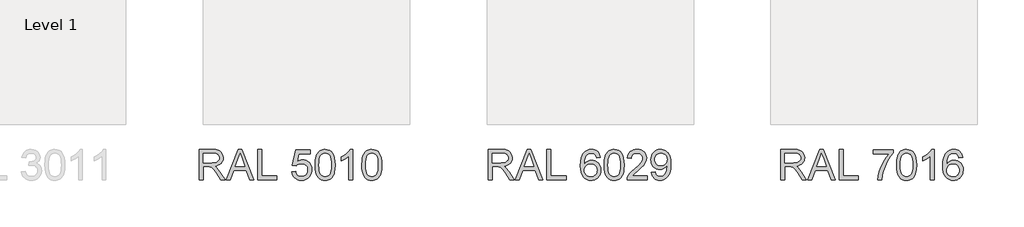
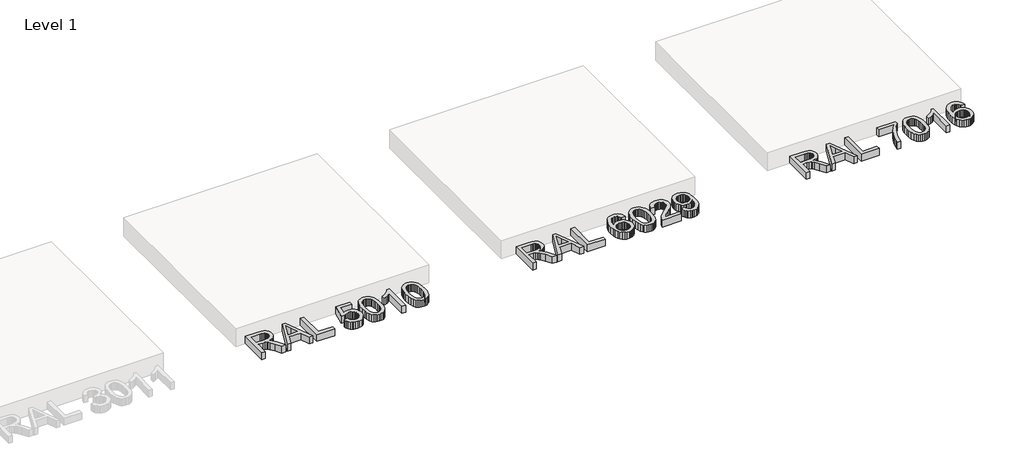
# One storey, part 15 of 27: 3 proxies.
"""IFC4 building model written with IfcOpenShell, lengths in millimetres."""

import ifcopenshell
import ifcopenshell.guid

model = None  # the IFC model being written
_history = None  # IfcOwnerHistory: only IFC2X3 demands one
_inside = {}  # id of a spatial element -> (the spatial element, [elements in it])
_under = {}  # id of a project, library or spatial element -> (it, [spatial elements below it])
_declared = {}  # id of a project -> (the project, [libraries it declares])
_typed = {}  # id of a type object -> (the type object, [elements of that type])
_made_of = {}  # id of a material, layer set ... -> (it, [elements and type objects made of it])


def new_model(schema):
    """Start an empty IFC model of exactly this schema.

    Asked for "IFC4X3", IfcOpenShell would pick the latest addendum, in which some entities
    have other attributes; the version numbers below select the first issue.
    IFC2X3 requires an IfcOwnerHistory on every rooted entity: one is made here for all.
    """
    global model, _history
    if schema == "IFC4X3":
        model = ifcopenshell.file(schema_version=(4, 3, 0, 0))
    else:
        model = ifcopenshell.file(schema=schema)
    _inside.clear()
    _under.clear()
    _declared.clear()
    _typed.clear()
    _made_of.clear()
    _history = None
    if model.schema == "IFC2X3":
        org = make("IfcOrganization", Name="unknown")
        user = make(
            "IfcPersonAndOrganization",
            ThePerson=make("IfcPerson", FamilyName="unknown"),
            TheOrganization=org,
        )
        app = make(
            "IfcApplication",
            ApplicationDeveloper=org,
            Version="unknown",
            ApplicationFullName="unknown",
            ApplicationIdentifier="unknown",
        )
        _history = make(
            "IfcOwnerHistory",
            OwningUser=user,
            OwningApplication=app,
            ChangeAction="ADDED",
            CreationDate=0,
        )
    return model


def make(cls, **values):
    """One entity of the class cls with the attributes given. An attribute that is None is left unset."""
    return model.create_entity(
        cls, **{name: value for name, value in values.items() if value is not None}
    )


def rooted(cls, **values):
    """An entity with a GlobalId (a new one), such as an element, a storey or a relation."""
    return make(cls, GlobalId=ifcopenshell.guid.new(), OwnerHistory=_history, **values)


def si_unit(unit_type, name, prefix=None):
    """IfcSIUnit, for example si_unit("LENGTHUNIT", "METRE", prefix="MILLI")."""
    return make("IfcSIUnit", UnitType=unit_type, Prefix=prefix, Name=name)


def assignment(units):
    """IfcUnitAssignment: the units of a project."""
    return None if units is None else make("IfcUnitAssignment", Units=units)


def point(xyz):
    """IfcCartesianPoint."""
    return None if xyz is None else make("IfcCartesianPoint", Coordinates=xyz)


def direction(xyz):
    """IfcDirection."""
    return None if xyz is None else make("IfcDirection", DirectionRatios=xyz)


def frame(location, z_axis=None, x_axis=None):
    """IfcAxis2Placement3D, a coordinate frame: its origin and axes. An axis left out is left unset."""
    return make(
        "IfcAxis2Placement3D",
        Location=point(location),
        Axis=direction(z_axis),
        RefDirection=direction(x_axis),
    )


def origin():
    """The frame at (0, 0, 0) with its axes left unset."""
    return frame((0.0, 0.0, 0.0))


def origin_with_axes():
    """The frame at (0, 0, 0) with the z axis (0, 0, 1) and the x axis (1, 0, 0) written out."""
    return frame((0.0, 0.0, 0.0), z_axis=(0.0, 0.0, 1.0), x_axis=(1.0, 0.0, 0.0))


def place(relative_to, where):
    """IfcLocalPlacement: puts the frame where relative to a parent placement (None: the world)."""
    return make(
        "IfcLocalPlacement", PlacementRelTo=relative_to, RelativePlacement=where
    )


def context(
    kind, dimensions, precision=None, world=None, true_north=None, identifier=None
):
    """IfcGeometricRepresentationContext, for example the 3D "Model" context."""
    return make(
        "IfcGeometricRepresentationContext",
        ContextIdentifier=identifier,
        ContextType=kind,
        CoordinateSpaceDimension=dimensions,
        Precision=precision,
        WorldCoordinateSystem=world,
        TrueNorth=true_north,
    )


def project(units=None, contexts=None):
    """IfcProject with its units and contexts."""
    return rooted(
        "IfcProject",
        Name="project",
        RepresentationContexts=contexts,
        UnitsInContext=assignment(units),
    )


def spatial(cls, under=None, at=None, **own):
    """A site, building, storey or space (cls), placed at a placement, below another one or the project."""
    s = rooted(cls, ObjectPlacement=at, **own)
    if under is not None:
        _under.setdefault(under.id(), (under, []))[1].append(s)
    return s


def polyline(points):
    """IfcPolyline through the points."""
    return make("IfcPolyline", Points=[point(p) for p in points])


def outline(outer, holes=None, kind="AREA"):
    """IfcArbitraryClosedProfileDef: a profile drawn as a closed curve; with holes, ...WithVoids."""
    if holes is None:
        return make("IfcArbitraryClosedProfileDef", ProfileType=kind, OuterCurve=outer)
    return make(
        "IfcArbitraryProfileDefWithVoids",
        ProfileType=kind,
        OuterCurve=outer,
        InnerCurves=holes,
    )


def extrude(swept, where, along, depth):
    """IfcExtrudedAreaSolid: the profile swept, set in the frame where, extruded along a direction by depth."""
    return make(
        "IfcExtrudedAreaSolid",
        SweptArea=swept,
        Position=where,
        ExtrudedDirection=direction(along),
        Depth=depth,
    )


def shape(context_of_items, identifier, shape_type, items):
    """IfcShapeRepresentation: the items that make up one representation, for example the "Body"."""
    return make(
        "IfcShapeRepresentation",
        ContextOfItems=context_of_items,
        RepresentationIdentifier=identifier,
        RepresentationType=shape_type,
        Items=items,
    )


def made_of(thing, what):
    """Note that an element or type object is made of a material, layer set ...; save() writes the relation."""
    if what is not None:
        _made_of.setdefault(what.id(), (what, []))[1].append(thing)
    return thing


def element(
    cls,
    number,
    at=None,
    inside=None,
    cuts=None,
    type_object=None,
    material=None,
    context=None,
    identifier="Body",
    shape_type=None,
    held_by="IfcProductDefinitionShape",
    body=None,
    shapes=None,
    **own,
):
    """One element of the class cls, such as IfcWall. Its Tag is "e" and its number.

    at: its placement. inside: the storey or other place that contains it. cuts: it is an
    opening in that element (IfcRelVoidsElement). A single representation is given by context,
    identifier, shape_type and body (its items); several are given by shapes. held_by: the class
    of the entity that holds the representations. save() writes the other relations.
    """
    e = rooted(cls, Tag="e%d" % number, ObjectPlacement=at, **own)
    if body is not None:
        shapes = [shape(context, identifier, shape_type, body)]
    if shapes is not None:
        e.Representation = make(held_by, Representations=shapes)
    if inside is not None:
        _inside.setdefault(inside.id(), (inside, []))[1].append(e)
    if cuts is not None:
        rooted(
            "IfcRelVoidsElement", RelatingBuildingElement=cuts, RelatedOpeningElement=e
        )
    if type_object is not None:
        _typed.setdefault(type_object.id(), (type_object, []))[1].append(e)
    return made_of(e, material)


def aggregate(whole, parts):
    """IfcRelAggregates: a whole, such as a stair, and the parts it consists of."""
    return rooted("IfcRelAggregates", RelatingObject=whole, RelatedObjects=parts)


def save(model, path):
    """Write the relations noted so far, then the file.

    IfcRelAggregates (storeys below a building ...), IfcRelContainedInSpatialStructure (elements
    in a storey), IfcRelDefinesByType, IfcRelAssociatesMaterial and IfcRelDeclares: one each for
    every whole, place, type object, material and project.
    """
    for whole, parts in _under.values():
        aggregate(whole, parts)
    for where, things in _inside.values():
        rooted(
            "IfcRelContainedInSpatialStructure",
            RelatedElements=things,
            RelatingStructure=where,
        )
    for kind, things in _typed.values():
        rooted("IfcRelDefinesByType", RelatedObjects=things, RelatingType=kind)
    for what, things in _made_of.values():
        rooted("IfcRelAssociatesMaterial", RelatedObjects=things, RelatingMaterial=what)
    for by, libraries in _declared.values():
        rooted("IfcRelDeclares", RelatingContext=by, RelatedDefinitions=libraries)
    model.write(path)


model = new_model("IFC4")

# Units and contexts
model_context = context("Model", 3, world=origin())
ifc_project = project(units=[si_unit("LENGTHUNIT", "METRE", prefix="MILLI")], contexts=[model_context])

# Site, building, storey
site = spatial("IfcSite", under=ifc_project)
building = spatial("IfcBuilding", under=site)
storey = spatial("IfcBuildingStorey", under=building, Name="Level 1", Elevation=0.0)

# Proxies
placement = place(None, origin())
element("IfcBuildingElementProxy", 1, Name="600mm Arial", ObjectType="600mm Arial", at=placement, inside=storey, context=model_context, shape_type="SweptSolid", body=[
    extrude(outline(polyline([(9623.5808217, -57508.2089819), (9623.5808217, -56917.4397512), (9878.1481294, -56917.4397512), (9946.5676005, -56921.4241262), (9996.3452448, -56933.3772512), (10015.5549803, -56942.8784531), (10032.7274563, -56955.4445588), (10047.8626727, -56971.0755685), (10060.9606294, -56989.7714819), (10071.5300404, -57010.5271911), (10079.0796198, -57032.3375877), (10085.1192832, -57079.1224435), (10082.6177808, -57109.4649915), (10075.1132736, -57137.3195588), (10062.6057616, -57162.6861454), (10045.0952448, -57185.5647512), (10022.3563626, -57205.2252079), (9994.1637544, -57220.9373473), (9960.5174202, -57232.7011694), (9921.4173602, -57240.5166742), (9945.7563025, -57256.4181165), (9963.388514, -57272.1032127), (10023.2442832, -57348.1128281), (10121.7538986, -57508.2089819), (10035.9365909, -57508.2089819), (9959.0615909, -57385.7570588), (9903.5327448, -57304.6993665), (9882.8897159, -57281.0635492), (9864.5183217, -57266.4060973), (9829.3981294, -57252.3435973), (9786.5615909, -57249.7474435), (9697.4269755, -57249.7474435), (9697.4269755, -57508.2089819), (9623.5808217, -57508.2089819)]), holes=[polyline([(9697.4269755, -57175.9012896), (9862.7154371, -57175.9012896), (9910.185389, -57173.2871069), (9947.0183217, -57165.4445588), (9974.7466871, -57151.8508088), (9994.9029371, -57131.9830204), (10007.1805813, -57107.9505685), (10011.2731294, -57081.8628281), (10009.3215068, -57062.9776117), (10003.466639, -57045.8411935), (9993.708526, -57030.4535733), (9980.0471678, -57016.8147512), (9962.1670597, -57005.645881), (9939.7526967, -56997.6681165), (9912.8040789, -56992.8814579), (9881.3212063, -56991.285905), (9697.4269755, -56991.285905), (9697.4269755, -57175.9012896)])]), origin_with_axes(), (0.0, 0.0, 1.0), 150.0),
    extrude(outline(polyline([(10145.5519755, -57508.2089819), (10381.3692832, -56917.4397512), (10444.2538986, -56917.4397512), (10680.0712063, -57508.2089819), (10602.0423602, -57508.2089819), (10534.3981294, -57323.5935973), (10291.0808217, -57323.5935973), (10223.5808217, -57508.2089819), (10145.5519755, -57508.2089819)]), holes=[polyline([(10318.1962063, -57249.7474435), (10507.4269755, -57249.7474435), (10454.2058217, -57104.5070588), (10412.8115909, -56991.285905), (10376.0327448, -57091.8147512), (10318.1962063, -57249.7474435)])]), origin_with_axes(), (0.0, 0.0, 1.0), 150.0),
    extrude(outline(polyline([(10758.9654371, -57508.2089819), (10758.9654371, -56917.4397512), (10832.8115909, -56917.4397512), (10832.8115909, -57434.3628281), (11128.1962063, -57434.3628281), (11128.1962063, -57508.2089819), (10758.9654371, -57508.2089819)])), origin_with_axes(), (0.0, 0.0, 1.0), 150.0),
    extrude(outline(polyline([(11414.3500525, -57000.5166742), (11414.3500525, -56926.6705204), (11802.0423602, -56926.6705204), (11802.0423602, -56986.3820588), (11746.7839467, -57056.3159531), (11692.0663986, -57145.2522512), (11643.8031775, -57245.0779723), (11607.9077448, -57347.6801358), (11590.3115909, -57424.4469627), (11580.5038986, -57508.2089819), (11506.6577448, -57508.2089819), (11514.6445236, -57432.0911935), (11536.0087063, -57341.6224435), (11570.1733698, -57245.7270108), (11616.5615909, -57153.3291742), (11670.7202448, -57069.80153), (11728.1962063, -57000.5166742), (11414.3500525, -57000.5166742)])), origin_with_axes(), (0.0, 0.0, 1.0), 150.0),
    extrude(outline(polyline([(11866.6577448, -57217.5839819), (11872.0844275, -57123.0226838), (11878.8677808, -57082.9220228), (11888.3644755, -57047.6080204), (11900.5339467, -57016.7922151), (11915.3356294, -56990.1861454), (11932.7695236, -56967.7898113), (11952.8356294, -56949.6032127), (11975.6015549, -56935.5316983), (12001.1349082, -56925.4806165), (12029.4356895, -56919.4499675), (12060.5038986, -56917.4397512), (12106.0087063, -56922.1993665), (12146.7538986, -56936.4782127), (12180.8284178, -56959.7173954), (12206.3212063, -56991.3580204), (12225.576014, -57031.129655), (12240.9365909, -57078.7618665), (12250.9966871, -57139.2486454), (12254.3500525, -57217.5839819), (12248.9774563, -57311.6044146), (12242.2617111, -57351.5698593), (12232.8596678, -57386.8387896), (12220.7848481, -57417.6681165), (12206.0507736, -57444.3147512), (12188.6574443, -57466.7786935), (12168.6048602, -57485.0599435), (12145.8118914, -57499.2261093), (12120.1974082, -57509.3447992), (12091.7614106, -57515.4160132), (12060.5038986, -57517.4397512), (12019.8308217, -57513.9241262), (11983.7731294, -57503.3772512), (11952.3308217, -57485.7991262), (11925.5038986, -57461.1897512), (11899.7587063, -57416.7035733), (11881.3692832, -57361.2738858), (11870.3356294, -57294.9006887), (11866.6577448, -57217.5839819)]), holes=[polyline([(11940.5038986, -57217.4397512), (11942.6673602, -57281.6359651), (11949.1577448, -57333.5996069), (11959.9750525, -57373.3306766), (11975.1192832, -57400.8291742), (11993.4365909, -57419.5386093), (12013.7731294, -57432.9024915), (12036.1288986, -57440.9208209), (12060.5038986, -57443.5935973), (12084.8788986, -57440.9118064), (12107.2346678, -57432.8664338), (12127.5712063, -57419.4574795), (12145.888514, -57400.6849435), (12161.0327448, -57373.1413738), (12171.8500525, -57333.4193185), (12178.3404371, -57281.5187776), (12180.5038986, -57217.4397512), (12178.4125525, -57154.942756), (12172.138514, -57103.8940781), (12161.6817832, -57064.2937175), (12147.0423602, -57036.1416742), (12129.0315428, -57016.5172752), (12108.4606294, -57002.4998473), (12085.3296198, -56994.0893906), (12059.638514, -56991.285905), (12035.3897159, -56993.7558569), (12013.4125525, -57001.1657127), (11993.7070236, -57013.5154723), (11976.2731294, -57030.8051358), (11960.6240909, -57061.4541742), (11949.4462063, -57102.7762896), (11942.7394755, -57154.7714819), (11940.5038986, -57217.4397512)])]), origin_with_axes(), (0.0, 0.0, 1.0), 150.0),
    extrude(outline(polyline([(12595.888514, -57508.2089819), (12522.0423602, -57508.2089819), (12522.0423602, -57047.8243665), (12491.2130332, -57072.7582608), (12452.0904371, -57097.6560973), (12411.0207255, -57119.4169146), (12374.3500525, -57134.9397512), (12374.3500525, -57065.1320588), (12432.3488505, -57033.5815781), (12482.5952448, -56996.0455204), (12522.2046198, -56956.129655), (12548.2923602, -56917.4397512), (12595.888514, -56917.4397512), (12595.888514, -57508.2089819)])), origin_with_axes(), (0.0, 0.0, 1.0), 150.0),
    extrude(outline(polyline([(13149.7346678, -57074.3628281), (13075.888514, -57083.5935973), (13063.9894755, -57046.9950396), (13047.9077448, -57022.0070588), (13032.0333457, -57008.566554), (13014.4101486, -56998.9661935), (12995.0381534, -56993.2059771), (12973.9173602, -56991.285905), (12939.5904371, -56995.7570588), (12907.2827448, -57009.1705204), (12879.5363505, -57037.4217223), (12856.8740909, -57076.3099435), (12848.0174202, -57101.1131286), (12841.5676005, -57131.3159531), (12835.888514, -57207.9205204), (12865.5099082, -57173.3592223), (12901.0087063, -57149.0022512), (12940.4017352, -57134.5611454), (12981.7058217, -57129.7474435), (13017.1865909, -57133.0377079), (13049.9269755, -57142.9085012), (13079.9269755, -57159.3598233), (13107.1865909, -57182.3916742), (13129.8398361, -57210.6338617), (13146.0207255, -57242.7161935), (13155.7292592, -57278.6386694), (13158.9654371, -57318.4012896), (13152.8716871, -57371.2798954), (13145.2544996, -57396.2723834), (13134.5904371, -57420.3003281), (13121.2581053, -57442.4667944), (13105.6361102, -57461.8748473), (13087.7244515, -57478.5244867), (13067.5231294, -57492.4157127), (13045.4648361, -57503.3637295), (13021.982264, -57511.1837415), (12997.075413, -57515.8757488), (12970.7442832, -57517.4397512), (12926.7223481, -57513.2931165), (12886.9642352, -57500.8532127), (12851.4699443, -57480.1200396), (12820.2394755, -57451.0935973), (12794.7782376, -57412.5479242), (12776.591639, -57363.2570588), (12765.6796799, -57303.2210012), (12762.0423602, -57232.4397512), (12766.0808217, -57153.0857848), (12778.1962063, -57085.3604242), (12798.388514, -57029.2636694), (12811.513514, -57005.5760192), (12826.6577448, -56984.7955204), (12857.2977688, -56955.3273713), (12892.8236102, -56934.2786935), (12933.2352688, -56921.6494867), (12978.5327448, -56917.4397512), (13012.544163, -56920.0449194), (13043.3284178, -56927.8604242), (13070.8855092, -56940.8862656), (13095.2154371, -56959.1224435), (13115.6601486, -56981.9559771), (13131.5615909, -57008.7738858), (13142.919764, -57039.5761694), (13149.7346678, -57074.3628281)]), holes=[polyline([(12835.888514, -57317.2474435), (12840.1613505, -57349.9697992), (12852.9798602, -57381.2137896), (12872.8837063, -57408.0767704), (12898.4125525, -57427.6560973), (12929.2238505, -57439.6092223), (12964.9750525, -57443.5935973), (12990.6436222, -57441.5292944), (13013.7070236, -57435.3363858), (13034.1652568, -57425.0148713), (13052.0183217, -57410.5647512), (13066.4999924, -57392.5719627), (13076.8440428, -57371.6224435), (13083.0504731, -57347.7161935), (13085.1192832, -57320.8532127), (13083.0775164, -57295.0404122), (13076.9522159, -57272.1212415), (13066.7433818, -57252.0957007), (13052.451014, -57234.9637896), (13034.5438626, -57221.2393305), (13013.4906775, -57211.4361454), (12989.2914587, -57205.5542343), (12961.9462063, -57203.5935973), (12936.6201847, -57205.5542343), (12913.2863505, -57211.4361454), (12891.9447039, -57221.2393305), (12872.5952448, -57234.9637896), (12856.5360501, -57251.8703401), (12845.0651967, -57271.2197992), (12838.1826847, -57293.012167), (12835.888514, -57317.2474435)])]), origin_with_axes(), (0.0, 0.0, 1.0), 150.0),
])
element("IfcBuildingElementProxy", 2, Name="600mm Arial", ObjectType="600mm Arial", at=placement, inside=storey, context=model_context, shape_type="SweptSolid", body=[
    extrude(outline(polyline([(-1640.486023, -57508.2089819), (-1640.486023, -56917.4397512), (-1385.9187153, -56917.4397512), (-1317.4992441, -56921.4241262), (-1267.7215999, -56933.3772512), (-1248.5118643, -56942.8784531), (-1231.3393884, -56955.4445588), (-1216.204172, -56971.0755685), (-1203.1062153, -56989.7714819), (-1192.5368042, -57010.5271911), (-1184.9872249, -57032.3375877), (-1178.9475614, -57079.1224435), (-1181.4490638, -57109.4649915), (-1188.953571, -57137.3195588), (-1201.4610831, -57162.6861454), (-1218.9715999, -57185.5647512), (-1241.7104821, -57205.2252079), (-1269.9030903, -57220.9373473), (-1303.5494244, -57232.7011694), (-1342.6494845, -57240.5166742), (-1318.3105422, -57256.4181165), (-1300.6783307, -57272.1032127), (-1240.8225614, -57348.1128281), (-1142.312946, -57508.2089819), (-1228.1302537, -57508.2089819), (-1305.0052537, -57385.7570588), (-1360.5340999, -57304.6993665), (-1381.1771287, -57281.0635492), (-1399.548523, -57266.4060973), (-1434.6687153, -57252.3435973), (-1477.5052537, -57249.7474435), (-1566.6398691, -57249.7474435), (-1566.6398691, -57508.2089819), (-1640.486023, -57508.2089819)]), holes=[polyline([(-1566.6398691, -57175.9012896), (-1401.3514076, -57175.9012896), (-1353.8814557, -57173.2871069), (-1317.048523, -57165.4445588), (-1289.3201576, -57151.8508088), (-1269.1639076, -57131.9830204), (-1256.8862634, -57107.9505685), (-1252.7937153, -57081.8628281), (-1254.7453379, -57062.9776117), (-1260.6002057, -57045.8411935), (-1270.3583186, -57030.4535733), (-1284.0196768, -57016.8147512), (-1301.899785, -57005.645881), (-1324.314148, -56997.6681165), (-1351.2627658, -56992.8814579), (-1382.7456384, -56991.285905), (-1566.6398691, -56991.285905), (-1566.6398691, -57175.9012896)])]), origin_with_axes(), (0.0, 0.0, 1.0), 150.0),
    extrude(outline(polyline([(-1118.5148691, -57508.2089819), (-882.6975614, -56917.4397512), (-819.812946, -56917.4397512), (-583.9956384, -57508.2089819), (-662.0244845, -57508.2089819), (-729.6687153, -57323.5935973), (-972.986023, -57323.5935973), (-1040.486023, -57508.2089819), (-1118.5148691, -57508.2089819)]), holes=[polyline([(-945.8706384, -57249.7474435), (-756.6398691, -57249.7474435), (-809.861023, -57104.5070588), (-851.2552537, -56991.285905), (-888.0340999, -57091.8147512), (-945.8706384, -57249.7474435)])]), origin_with_axes(), (0.0, 0.0, 1.0), 150.0),
    extrude(outline(polyline([(-505.1014076, -57508.2089819), (-505.1014076, -56917.4397512), (-431.2552537, -56917.4397512), (-431.2552537, -57434.3628281), (-135.8706384, -57434.3628281), (-135.8706384, -57508.2089819), (-505.1014076, -57508.2089819)])), origin_with_axes(), (0.0, 0.0, 1.0), 150.0),
    extrude(outline(polyline([(150.2832078, -57351.285905), (224.1293616, -57342.0551358), (229.6461886, -57365.7946189), (237.687054, -57386.3880685), (248.2519578, -57403.8354843), (261.3409001, -57418.1368665), (276.9268376, -57429.2741863), (294.982727, -57437.2294146), (315.5085684, -57442.0025516), (338.5043616, -57443.5935973), (366.6293616, -57441.3805564), (391.437054, -57434.7414338), (412.9274386, -57423.6762295), (431.1005155, -57408.1849435), (445.5506357, -57389.0338016), (455.8721501, -57366.98903), (462.0650588, -57342.0506286), (464.1293616, -57314.2185973), (462.1957679, -57287.9145108), (456.3949866, -57264.5310973), (446.7270179, -57244.0683569), (433.1918616, -57226.5262896), (415.7444458, -57212.4547752), (394.3396982, -57202.4036935), (368.9776189, -57196.3730444), (339.6582078, -57194.3628281), (303.8348905, -57197.5719627), (274.826477, -57207.1993665), (251.6594097, -57221.9469627), (233.3601309, -57240.5166742), (159.513977, -57231.285905), (224.1293616, -56926.6705204), (510.2832078, -56926.6705204), (510.2832078, -57000.5166742), (283.8409001, -57000.5166742), (252.2543616, -57163.2089819), (278.3150588, -57144.5310973), (305.0067655, -57131.1897512), (332.3294818, -57123.1849435), (360.2832078, -57120.5166742), (396.2462487, -57123.8249675), (429.279602, -57133.7498473), (459.3832679, -57150.2913137), (486.5572463, -57173.4493665), (509.052739, -57201.8087415), (525.1209482, -57233.9541742), (534.7618737, -57269.8856646), (537.9755155, -57309.6032127), (535.0818857, -57347.8604242), (526.4009963, -57383.4493665), (511.9328472, -57416.3700396), (491.6774386, -57446.6224435), (460.9923424, -57477.6050156), (425.187054, -57499.7354242), (384.2615732, -57513.0136694), (338.2159001, -57517.4397512), (300.1074265, -57514.5957007), (265.685852, -57506.0635492), (234.9511765, -57491.8432968), (207.9034001, -57471.9349435), (185.3988929, -57447.3300757), (168.2940251, -57419.02028), (156.5887967, -57387.0055564), (150.2832078, -57351.285905)])), origin_with_axes(), (0.0, 0.0, 1.0), 150.0),
    extrude(outline(polyline([(602.5909001, -57217.5839819), (608.0175828, -57123.0226838), (614.8009362, -57082.9220228), (624.2976309, -57047.6080204), (636.467102, -57016.7922151), (651.2687847, -56990.1861454), (668.702679, -56967.7898113), (688.7687847, -56949.6032127), (711.5347102, -56935.5316983), (737.0680636, -56925.4806165), (765.3688448, -56919.4499675), (796.437054, -56917.4397512), (841.9418616, -56922.1993665), (882.687054, -56936.4782127), (916.7615732, -56959.7173954), (942.2543616, -56991.3580204), (961.5091693, -57031.129655), (976.8697463, -57078.7618665), (986.9298424, -57139.2486454), (990.2832078, -57217.5839819), (984.9106116, -57311.6044146), (978.1948665, -57351.5698593), (968.7928232, -57386.8387896), (956.7180035, -57417.6681165), (941.983929, -57444.3147512), (924.5905996, -57466.7786935), (904.5380155, -57485.0599435), (881.7450467, -57499.2261093), (856.1305636, -57509.3447992), (827.694566, -57515.4160132), (796.437054, -57517.4397512), (755.763977, -57513.9241262), (719.7062847, -57503.3772512), (688.263977, -57485.7991262), (661.437054, -57461.1897512), (635.6918616, -57416.7035733), (617.3024386, -57361.2738858), (606.2687847, -57294.9006887), (602.5909001, -57217.5839819)]), holes=[polyline([(676.437054, -57217.4397512), (678.6005155, -57281.6359651), (685.0909001, -57333.5996069), (695.9082078, -57373.3306766), (711.0524386, -57400.8291742), (729.3697463, -57419.5386093), (749.7062847, -57432.9024915), (772.062054, -57440.9208209), (796.437054, -57443.5935973), (820.812054, -57440.9118064), (843.1678232, -57432.8664338), (863.5043616, -57419.4574795), (881.8216693, -57400.6849435), (896.9659001, -57373.1413738), (907.7832078, -57333.4193185), (914.2735924, -57281.5187776), (916.437054, -57217.4397512), (914.3457078, -57154.942756), (908.0716693, -57103.8940781), (897.6149386, -57064.2937175), (882.9755155, -57036.1416742), (864.9646982, -57016.5172752), (844.3937847, -57002.4998473), (821.2627751, -56994.0893906), (795.5716693, -56991.285905), (771.3228713, -56993.7558569), (749.3457078, -57001.1657127), (729.640179, -57013.5154723), (712.2062847, -57030.8051358), (696.5572463, -57061.4541742), (685.3793616, -57102.7762896), (678.6726309, -57154.7714819), (676.437054, -57217.4397512)])]), origin_with_axes(), (0.0, 0.0, 1.0), 150.0),
    extrude(outline(polyline([(1331.8216693, -57508.2089819), (1257.9755155, -57508.2089819), (1257.9755155, -57047.8243665), (1227.1461886, -57072.7582608), (1188.0235924, -57097.6560973), (1146.9538809, -57119.4169146), (1110.2832078, -57134.9397512), (1110.2832078, -57065.1320588), (1168.2820059, -57033.5815781), (1218.5284001, -56996.0455204), (1258.1377751, -56956.129655), (1284.2255155, -56917.4397512), (1331.8216693, -56917.4397512), (1331.8216693, -57508.2089819)])), origin_with_axes(), (0.0, 0.0, 1.0), 150.0),
    extrude(outline(polyline([(1507.2062847, -57217.5839819), (1512.6329674, -57123.0226838), (1519.4163208, -57082.9220228), (1528.9130155, -57047.6080204), (1541.0824866, -57016.7922151), (1555.8841693, -56990.1861454), (1573.3180636, -56967.7898113), (1593.3841693, -56949.6032127), (1616.1500948, -56935.5316983), (1641.6834482, -56925.4806165), (1669.9842294, -56919.4499675), (1701.0524386, -56917.4397512), (1746.5572463, -56922.1993665), (1787.3024386, -56936.4782127), (1821.3769578, -56959.7173954), (1846.8697463, -56991.3580204), (1866.124554, -57031.129655), (1881.4851309, -57078.7618665), (1891.545227, -57139.2486454), (1894.8985924, -57217.5839819), (1889.5259963, -57311.6044146), (1882.8102511, -57351.5698593), (1873.4082078, -57386.8387896), (1861.3333881, -57417.6681165), (1846.5993136, -57444.3147512), (1829.2059842, -57466.7786935), (1809.1534001, -57485.0599435), (1786.3604314, -57499.2261093), (1760.7459482, -57509.3447992), (1732.3099506, -57515.4160132), (1701.0524386, -57517.4397512), (1660.3793616, -57513.9241262), (1624.3216693, -57503.3772512), (1592.8793616, -57485.7991262), (1566.0524386, -57461.1897512), (1540.3072463, -57416.7035733), (1521.9178232, -57361.2738858), (1510.8841693, -57294.9006887), (1507.2062847, -57217.5839819)]), holes=[polyline([(1581.0524386, -57217.4397512), (1583.2159001, -57281.6359651), (1589.7062847, -57333.5996069), (1600.5235924, -57373.3306766), (1615.6678232, -57400.8291742), (1633.9851309, -57419.5386093), (1654.3216693, -57432.9024915), (1676.6774386, -57440.9208209), (1701.0524386, -57443.5935973), (1725.4274386, -57440.9118064), (1747.7832078, -57432.8664338), (1768.1197463, -57419.4574795), (1786.437054, -57400.6849435), (1801.5812847, -57373.1413738), (1812.3985924, -57333.4193185), (1818.888977, -57281.5187776), (1821.0524386, -57217.4397512), (1818.9610924, -57154.942756), (1812.687054, -57103.8940781), (1802.2303232, -57064.2937175), (1787.5909001, -57036.1416742), (1769.5800828, -57016.5172752), (1749.0091693, -57002.4998473), (1725.8781597, -56994.0893906), (1700.187054, -56991.285905), (1675.9382559, -56993.7558569), (1653.9610924, -57001.1657127), (1634.2555636, -57013.5154723), (1616.8216693, -57030.8051358), (1601.1726309, -57061.4541742), (1589.9947463, -57102.7762896), (1583.2880155, -57154.7714819), (1581.0524386, -57217.4397512)])]), origin_with_axes(), (0.0, 0.0, 1.0), 150.0),
])
element("IfcBuildingElementProxy", 3, Name="600mm Arial", ObjectType="600mm Arial", at=placement, inside=storey, context=model_context, shape_type="SweptSolid", body=[
    extrude(outline(polyline([(3959.513977, -57508.2089819), (3959.513977, -56917.4397512), (4214.0812847, -56917.4397512), (4282.5007559, -56921.4241262), (4332.2784001, -56933.3772512), (4351.4881357, -56942.8784531), (4368.6606116, -56955.4445588), (4383.795828, -56971.0755685), (4396.8937847, -56989.7714819), (4407.4631958, -57010.5271911), (4415.0127751, -57032.3375877), (4421.0524386, -57079.1224435), (4418.5509362, -57109.4649915), (4411.046429, -57137.3195588), (4398.5389169, -57162.6861454), (4381.0284001, -57185.5647512), (4358.2895179, -57205.2252079), (4330.0969097, -57220.9373473), (4296.4505756, -57232.7011694), (4257.3505155, -57240.5166742), (4281.6894578, -57256.4181165), (4299.3216693, -57272.1032127), (4359.1774386, -57348.1128281), (4457.687054, -57508.2089819), (4371.8697463, -57508.2089819), (4294.9947463, -57385.7570588), (4239.4659001, -57304.6993665), (4218.8228713, -57281.0635492), (4200.451477, -57266.4060973), (4165.3312847, -57252.3435973), (4122.4947463, -57249.7474435), (4033.3601309, -57249.7474435), (4033.3601309, -57508.2089819), (3959.513977, -57508.2089819)]), holes=[polyline([(4033.3601309, -57175.9012896), (4198.6485924, -57175.9012896), (4246.1185443, -57173.2871069), (4282.951477, -57165.4445588), (4310.6798424, -57151.8508088), (4330.8360924, -57131.9830204), (4343.1137366, -57107.9505685), (4347.2062847, -57081.8628281), (4345.2546621, -57062.9776117), (4339.3997943, -57045.8411935), (4329.6416814, -57030.4535733), (4315.9803232, -57016.8147512), (4298.100215, -57005.645881), (4275.685852, -56997.6681165), (4248.7372342, -56992.8814579), (4217.2543616, -56991.285905), (4033.3601309, -56991.285905), (4033.3601309, -57175.9012896)])]), origin_with_axes(), (0.0, 0.0, 1.0), 150.0),
    extrude(outline(polyline([(4481.4851309, -57508.2089819), (4717.3024386, -56917.4397512), (4780.187054, -56917.4397512), (5016.0043616, -57508.2089819), (4937.9755155, -57508.2089819), (4870.3312847, -57323.5935973), (4627.013977, -57323.5935973), (4559.513977, -57508.2089819), (4481.4851309, -57508.2089819)]), holes=[polyline([(4654.1293616, -57249.7474435), (4843.3601309, -57249.7474435), (4790.138977, -57104.5070588), (4748.7447463, -56991.285905), (4711.9659001, -57091.8147512), (4654.1293616, -57249.7474435)])]), origin_with_axes(), (0.0, 0.0, 1.0), 150.0),
    extrude(outline(polyline([(5094.8985924, -57508.2089819), (5094.8985924, -56917.4397512), (5168.7447463, -56917.4397512), (5168.7447463, -57434.3628281), (5464.1293616, -57434.3628281), (5464.1293616, -57508.2089819), (5094.8985924, -57508.2089819)])), origin_with_axes(), (0.0, 0.0, 1.0), 150.0),
    extrude(outline(polyline([(6128.7447463, -57074.3628281), (6054.8985924, -57083.5935973), (6042.999554, -57046.9950396), (6026.9178232, -57022.0070588), (6011.0434241, -57008.566554), (5993.420227, -56998.9661935), (5974.0482318, -56993.2059771), (5952.9274386, -56991.285905), (5918.6005155, -56995.7570588), (5886.2928232, -57009.1705204), (5858.546429, -57037.4217223), (5835.8841693, -57076.3099435), (5827.0274987, -57101.1131286), (5820.577679, -57131.3159531), (5814.8985924, -57207.9205204), (5844.5199866, -57173.3592223), (5880.0187847, -57149.0022512), (5919.4118136, -57134.5611454), (5960.7159001, -57129.7474435), (5996.1966693, -57133.0377079), (6028.937054, -57142.9085012), (6058.937054, -57159.3598233), (6086.1966693, -57182.3916742), (6108.8499145, -57210.6338617), (6125.030804, -57242.7161935), (6134.7393376, -57278.6386694), (6137.9755155, -57318.4012896), (6131.8817655, -57371.2798954), (6124.264578, -57396.2723834), (6113.6005155, -57420.3003281), (6100.2681838, -57442.4667944), (6084.6461886, -57461.8748473), (6066.7345299, -57478.5244867), (6046.5332078, -57492.4157127), (6024.4749145, -57503.3637295), (6000.9923424, -57511.1837415), (5976.0854915, -57515.8757488), (5949.7543616, -57517.4397512), (5905.7324265, -57513.2931165), (5865.9743136, -57500.8532127), (5830.4800227, -57480.1200396), (5799.249554, -57451.0935973), (5773.788316, -57412.5479242), (5755.6017174, -57363.2570588), (5744.6897583, -57303.2210012), (5741.0524386, -57232.4397512), (5745.0909001, -57153.0857848), (5757.2062847, -57085.3604242), (5777.3985924, -57029.2636694), (5790.5235924, -57005.5760192), (5805.6678232, -56984.7955204), (5836.3078472, -56955.3273713), (5871.8336886, -56934.2786935), (5912.2453472, -56921.6494867), (5957.5428232, -56917.4397512), (5991.5542415, -56920.0449194), (6022.3384963, -56927.8604242), (6049.8955876, -56940.8862656), (6074.2255155, -56959.1224435), (6094.670227, -56981.9559771), (6110.5716693, -57008.7738858), (6121.9298424, -57039.5761694), (6128.7447463, -57074.3628281)]), holes=[polyline([(5814.8985924, -57317.2474435), (5819.171429, -57349.9697992), (5831.9899386, -57381.2137896), (5851.8937847, -57408.0767704), (5877.4226309, -57427.6560973), (5908.233929, -57439.6092223), (5943.9851309, -57443.5935973), (5969.6537006, -57441.5292944), (5992.717102, -57435.3363858), (6013.1753352, -57425.0148713), (6031.0284001, -57410.5647512), (6045.5100708, -57392.5719627), (6055.8541213, -57371.6224435), (6062.0605515, -57347.7161935), (6064.1293616, -57320.8532127), (6062.0875948, -57295.0404122), (6055.9622943, -57272.1212415), (6045.7534602, -57252.0957007), (6031.4610924, -57234.9637896), (6013.553941, -57221.2393305), (5992.5007559, -57211.4361454), (5968.3015371, -57205.5542343), (5940.9562847, -57203.5935973), (5915.6302631, -57205.5542343), (5892.296429, -57211.4361454), (5870.9547823, -57221.2393305), (5851.6053232, -57234.9637896), (5835.5461285, -57251.8703401), (5824.0752751, -57271.2197992), (5817.1927631, -57293.012167), (5814.8985924, -57317.2474435)])]), origin_with_axes(), (0.0, 0.0, 1.0), 150.0),
    extrude(outline(polyline([(6202.5909001, -57217.5839819), (6208.0175828, -57123.0226838), (6214.8009362, -57082.9220228), (6224.2976309, -57047.6080204), (6236.467102, -57016.7922151), (6251.2687847, -56990.1861454), (6268.702679, -56967.7898113), (6288.7687847, -56949.6032127), (6311.5347102, -56935.5316983), (6337.0680636, -56925.4806165), (6365.3688448, -56919.4499675), (6396.437054, -56917.4397512), (6441.9418616, -56922.1993665), (6482.687054, -56936.4782127), (6516.7615732, -56959.7173954), (6542.2543616, -56991.3580204), (6561.5091693, -57031.129655), (6576.8697463, -57078.7618665), (6586.9298424, -57139.2486454), (6590.2832078, -57217.5839819), (6584.9106116, -57311.6044146), (6578.1948665, -57351.5698593), (6568.7928232, -57386.8387896), (6556.7180035, -57417.6681165), (6541.983929, -57444.3147512), (6524.5905996, -57466.7786935), (6504.5380155, -57485.0599435), (6481.7450467, -57499.2261093), (6456.1305636, -57509.3447992), (6427.694566, -57515.4160132), (6396.437054, -57517.4397512), (6355.763977, -57513.9241262), (6319.7062847, -57503.3772512), (6288.263977, -57485.7991262), (6261.437054, -57461.1897512), (6235.6918616, -57416.7035733), (6217.3024386, -57361.2738858), (6206.2687847, -57294.9006887), (6202.5909001, -57217.5839819)]), holes=[polyline([(6276.437054, -57217.4397512), (6278.6005155, -57281.6359651), (6285.0909001, -57333.5996069), (6295.9082078, -57373.3306766), (6311.0524386, -57400.8291742), (6329.3697463, -57419.5386093), (6349.7062847, -57432.9024915), (6372.062054, -57440.9208209), (6396.437054, -57443.5935973), (6420.812054, -57440.9118064), (6443.1678232, -57432.8664338), (6463.5043616, -57419.4574795), (6481.8216693, -57400.6849435), (6496.9659001, -57373.1413738), (6507.7832078, -57333.4193185), (6514.2735924, -57281.5187776), (6516.437054, -57217.4397512), (6514.3457078, -57154.942756), (6508.0716693, -57103.8940781), (6497.6149386, -57064.2937175), (6482.9755155, -57036.1416742), (6464.9646982, -57016.5172752), (6444.3937847, -57002.4998473), (6421.2627751, -56994.0893906), (6395.5716693, -56991.285905), (6371.3228713, -56993.7558569), (6349.3457078, -57001.1657127), (6329.640179, -57013.5154723), (6312.2062847, -57030.8051358), (6296.5572463, -57061.4541742), (6285.3793616, -57102.7762896), (6278.6726309, -57154.7714819), (6276.437054, -57217.4397512)])]), origin_with_axes(), (0.0, 0.0, 1.0), 150.0),
    extrude(outline(polyline([(7033.3601309, -57434.3628281), (7033.3601309, -57508.2089819), (6645.6678232, -57508.2089819), (6647.2904193, -57482.2113858), (6653.6005155, -57457.2955204), (6671.8096501, -57417.5058569), (6698.4562847, -57378.9060973), (6737.0019578, -57338.5034531), (6790.9082078, -57293.3051358), (6870.5957078, -57222.5238858), (6918.4082078, -57170.2762896), (6932.3535203, -57148.9301358), (6942.3144578, -57127.8724435), (6948.2910203, -57107.1032127), (6950.2832078, -57086.6224435), (6948.4037006, -57067.3541141), (6942.765179, -57049.64528), (6933.3676429, -57033.4959411), (6920.2110924, -57018.9060973), (6904.0256958, -57006.8222632), (6885.5416213, -56998.1909531), (6864.7588689, -56993.012167), (6841.6774386, -56991.285905), (6817.3610323, -56992.9716021), (6795.6137366, -56998.0286935), (6776.4355515, -57006.457179), (6759.826477, -57018.2570588), (6746.3904794, -57033.0316983), (6736.7315251, -57050.3844627), (6730.849614, -57070.3153521), (6728.7447463, -57092.8243665), (6654.8985924, -57083.5935973), (6661.2492535, -57045.4716021), (6672.8012366, -57012.1633088), (6689.5545419, -56983.6687175), (6711.5091693, -56959.9878281), (6738.1603112, -56941.3730444), (6769.0031597, -56928.0767704), (6804.037715, -56920.099006), (6843.263977, -56917.4397512), (6882.8418015, -56920.3964819), (6918.0656597, -56929.2666742), (6948.9355515, -56944.0503281), (6975.451477, -56964.7474435), (6996.7480515, -56989.8255685), (7011.9598905, -57017.7522512), (7021.0869939, -57048.5274915), (7024.1293616, -57082.1512896), (7020.8481116, -57117.4697992), (7011.0043616, -57152.1753281), (6993.5344097, -57187.4758088), (6967.374554, -57224.5791742), (6925.6738328, -57268.8760492), (6861.5812847, -57325.7570588), (6776.6293616, -57396.7907127), (6743.312054, -57434.3628281), (7033.3601309, -57434.3628281)])), origin_with_axes(), (0.0, 0.0, 1.0), 150.0),
    extrude(outline(polyline([(7116.437054, -57360.5166742), (7190.2832078, -57351.285905), (7202.9034001, -57393.2029723), (7212.1882559, -57409.1449795), (7223.4562847, -57421.7426358), (7236.5812847, -57431.3024314), (7251.437054, -57438.1308569), (7286.3409001, -57443.5935973), (7317.6570059, -57440.0779723), (7346.124554, -57429.5310973), (7369.7784001, -57413.1068185), (7386.6534001, -57391.9589819), (7399.435852, -57364.1585012), (7410.812054, -57327.7762896), (7418.8168616, -57286.0214819), (7421.4851309, -57242.1032127), (7421.0524386, -57227.6801358), (7395.4695059, -57258.9060973), (7361.9899386, -57283.6416742), (7323.029602, -57299.7594627), (7281.0043616, -57305.1320588), (7245.9247342, -57301.8508088), (7213.6666213, -57292.0070588), (7184.2300227, -57275.6008088), (7157.6149386, -57252.6320588), (7135.5611525, -57224.2997271), (7119.8084482, -57191.8027319), (7110.3568256, -57155.1410733), (7107.2062847, -57114.3147512), (7110.5100708, -57072.1272512), (7120.421429, -57034.2666742), (7136.9403592, -57000.7330204), (7160.0668616, -56971.5262896), (7188.1693256, -56947.863429), (7219.6161405, -56930.9613858), (7254.4073064, -56920.8201598), (7292.5428232, -56917.4397512), (7320.6993737, -56919.3688377), (7347.6209482, -56925.1560973), (7373.3075467, -56934.80153), (7397.7591693, -56948.3051358), (7420.1600107, -56965.3784531), (7439.6942655, -56985.7330204), (7456.3619338, -57009.3688377), (7470.1630155, -57036.285905), (7480.9848304, -57068.0347031), (7488.7146982, -57106.1657127), (7493.3526189, -57150.6789338), (7494.8985924, -57201.5743665), (7493.3571261, -57255.0253882), (7488.732727, -57302.7342223), (7481.0253953, -57344.7008689), (7470.2351309, -57380.9253281), (7456.4024987, -57412.2910132), (7439.5680636, -57439.6813377), (7419.7318256, -57463.0963016), (7396.8937847, -57482.535905), (7371.5136765, -57497.8063377), (7344.0512366, -57508.7137896), (7314.506465, -57515.2582608), (7282.8793616, -57517.4397512), (7249.7152991, -57514.8661334), (7219.7423424, -57507.14528), (7192.9604915, -57494.2771911), (7169.3697463, -57476.2618665), (7149.5650588, -57453.5860853), (7134.1413809, -57426.7366262), (7123.0987126, -57395.7134891), (7116.437054, -57360.5166742)]), holes=[polyline([(7421.0524386, -57112.5839819), (7419.0602511, -57086.1176358), (7413.0836886, -57062.535905), (7403.1227511, -57041.8387896), (7389.1774386, -57024.0262896), (7371.9328472, -57009.7023713), (7352.0740732, -56999.4710012), (7329.6011165, -56993.332179), (7304.513977, -56991.285905), (7278.624554, -56993.4899314), (7255.187054, -57000.1020108), (7234.201477, -57011.122143), (7215.6678232, -57026.5503281), (7200.5235924, -57045.4851238), (7189.7062847, -57067.0250877), (7183.2159001, -57091.1702199), (7181.0524386, -57117.9205204), (7183.0987126, -57141.9124074), (7189.2375347, -57163.55153), (7199.4689049, -57182.8378882), (7213.7928232, -57199.7714819), (7231.6143376, -57213.559042), (7252.3384963, -57223.4072992), (7275.9652991, -57229.3162536), (7302.4947463, -57231.285905), (7327.2348304, -57229.3162536), (7349.6762366, -57223.4072992), (7369.818965, -57213.559042), (7387.6630155, -57199.7714819), (7402.2708881, -57182.5043545), (7412.7050828, -57162.2173954), (7418.9655996, -57138.9106045), (7421.0524386, -57112.5839819)])]), origin_with_axes(), (0.0, 0.0, 1.0), 150.0),
])

save(model, "model.ifc")
